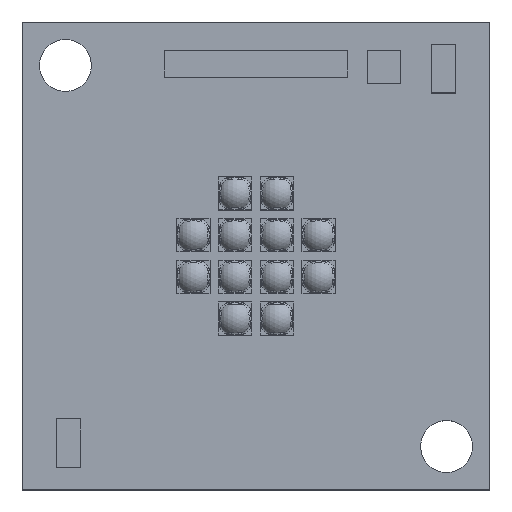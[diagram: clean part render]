
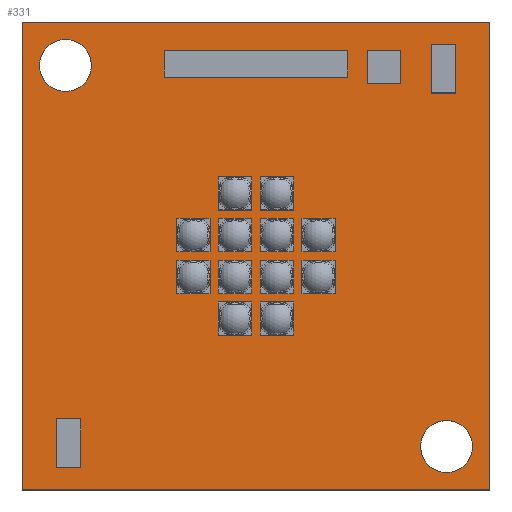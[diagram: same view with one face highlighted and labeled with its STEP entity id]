
A CAD part, top view. The second image highlights one B-rep face of the part: STEP entity #331.
In plain terms, the highlighted planar face has unit normal (0, 0, 1).
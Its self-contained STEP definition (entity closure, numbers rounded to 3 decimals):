
#104=DIRECTION('',(0.,-1.,0.));
#105=VECTOR('',#104,28.);
#106=CARTESIAN_POINT('',(-14.,14.,1.6));
#107=LINE('',#106,#105);
#111=DIRECTION('',(-1.,0.,0.));
#112=VECTOR('',#111,28.);
#113=CARTESIAN_POINT('',(14.,14.,1.6));
#114=LINE('',#113,#112);
#118=DIRECTION('',(0.,1.,0.));
#119=VECTOR('',#118,28.);
#120=CARTESIAN_POINT('',(14.,-14.,1.6));
#121=LINE('',#120,#119);
#125=DIRECTION('',(1.,0.,0.));
#126=VECTOR('',#125,28.);
#127=CARTESIAN_POINT('',(-14.,-14.,1.6));
#128=LINE('',#127,#126);
#132=CARTESIAN_POINT('',(-11.4,11.4,1.6));
#133=DIRECTION('',(0.,0.,1.));
#134=DIRECTION('',(1.,0.,0.));
#135=AXIS2_PLACEMENT_3D('',#132,#133,#134);
#140=CARTESIAN_POINT('',(-11.4,11.4,1.6));
#141=DIRECTION('',(0.,0.,1.));
#142=DIRECTION('',(-1.,0.,0.));
#143=AXIS2_PLACEMENT_3D('',#140,#141,#142);
#148=CARTESIAN_POINT('',(11.4,-11.4,1.6));
#149=DIRECTION('',(0.,0.,1.));
#150=DIRECTION('',(1.,0.,0.));
#151=AXIS2_PLACEMENT_3D('',#148,#149,#150);
#156=CARTESIAN_POINT('',(11.4,-11.4,1.6));
#157=DIRECTION('',(0.,0.,1.));
#158=DIRECTION('',(-1.,0.,0.));
#159=AXIS2_PLACEMENT_3D('',#156,#157,#158);
#200=CARTESIAN_POINT('',(-14.,14.,1.6));
#201=CARTESIAN_POINT('',(-14.,-14.,1.6));
#202=VERTEX_POINT('',#200);
#203=VERTEX_POINT('',#201);
#204=CARTESIAN_POINT('',(14.,-14.,1.6));
#205=VERTEX_POINT('',#204);
#206=CARTESIAN_POINT('',(14.,14.,1.6));
#207=VERTEX_POINT('',#206);
#212=CARTESIAN_POINT('',(-9.85,11.4,1.6));
#213=CARTESIAN_POINT('',(-12.95,11.4,1.6));
#214=VERTEX_POINT('',#212);
#215=VERTEX_POINT('',#213);
#220=CARTESIAN_POINT('',(12.95,-11.4,1.6));
#221=CARTESIAN_POINT('',(9.85,-11.4,1.6));
#222=VERTEX_POINT('',#220);
#223=VERTEX_POINT('',#221);
#308=CARTESIAN_POINT('',(0.,0.,1.6));
#309=DIRECTION('',(0.,0.,1.));
#310=DIRECTION('',(1.,0.,0.));
#311=AXIS2_PLACEMENT_3D('',#308,#309,#310);
#312=PLANE('',#311);
#313=ORIENTED_EDGE('',*,*,#260,.F.);
#314=ORIENTED_EDGE('',*,*,#275,.F.);
#315=ORIENTED_EDGE('',*,*,#289,.F.);
#316=ORIENTED_EDGE('',*,*,#302,.F.);
#317=EDGE_LOOP('',(#313,#314,#315,#316));
#318=FACE_OUTER_BOUND('',#317,.F.);
#320=ORIENTED_EDGE('',*,*,#319,.T.);
#322=ORIENTED_EDGE('',*,*,#321,.T.);
#323=EDGE_LOOP('',(#320,#322));
#324=FACE_BOUND('',#323,.F.);
#326=ORIENTED_EDGE('',*,*,#325,.T.);
#328=ORIENTED_EDGE('',*,*,#327,.T.);
#329=EDGE_LOOP('',(#326,#328));
#330=FACE_BOUND('',#329,.F.);
#136=CIRCLE('',#135,1.55);
#144=CIRCLE('',#143,1.55);
#152=CIRCLE('',#151,1.55);
#160=CIRCLE('',#159,1.55);
#260=EDGE_CURVE('',#202,#203,#107,.T.);
#275=EDGE_CURVE('',#207,#202,#114,.T.);
#289=EDGE_CURVE('',#205,#207,#121,.T.);
#302=EDGE_CURVE('',#203,#205,#128,.T.);
#319=EDGE_CURVE('',#214,#215,#136,.T.);
#321=EDGE_CURVE('',#215,#214,#144,.T.);
#325=EDGE_CURVE('',#222,#223,#152,.T.);
#327=EDGE_CURVE('',#223,#222,#160,.T.);
#331=ADVANCED_FACE('',(#318,#324,#330),#312,.T.);
